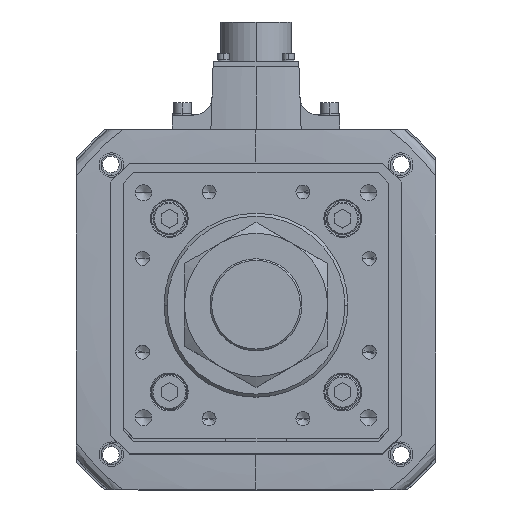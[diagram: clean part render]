
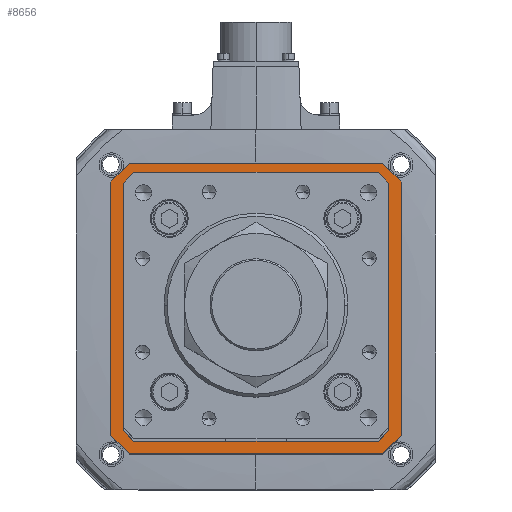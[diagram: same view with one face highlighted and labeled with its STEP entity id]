
A CAD part, top view. The second image highlights one B-rep face of the part: STEP entity #8656.
In plain terms, the highlighted planar face has unit normal (0, 0, 1).
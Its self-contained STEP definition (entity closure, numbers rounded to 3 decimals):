
#110 = DIRECTION ( 'NONE',  ( -0.707, -0.707, 0. ) ) ;
#290 = ORIENTED_EDGE ( 'NONE', *, *, #50712, .T. ) ;
#583 = LINE ( 'NONE', #14537, #45347 ) ;
#713 = CARTESIAN_POINT ( 'NONE',  ( 62., -71., -142. ) ) ;
#1245 = CARTESIAN_POINT ( 'NONE',  ( -71., -62., -142. ) ) ;
#1287 = VECTOR ( 'NONE', #42397, 1000. ) ;
#1475 = ORIENTED_EDGE ( 'NONE', *, *, #41529, .T. ) ;
#2256 = VECTOR ( 'NONE', #11108, 1000. ) ;
#2274 = EDGE_CURVE ( 'NONE', #53162, #16211, #14373, .T. ) ;
#2767 = CARTESIAN_POINT ( 'NONE',  ( 60.896, 60.896, -142. ) ) ;
#3527 = LINE ( 'NONE', #8687, #22838 ) ;
#4228 = LINE ( 'NONE', #28700, #2256 ) ;
#5228 = CARTESIAN_POINT ( 'NONE',  ( 58.793, 63., -142. ) ) ;
#5737 = CARTESIAN_POINT ( 'NONE',  ( -71., 62., -142. ) ) ;
#5987 = DIRECTION ( 'NONE',  ( 0., -1., 0. ) ) ;
#6317 = VERTEX_POINT ( 'NONE', #33688 ) ;
#6422 = DIRECTION ( 'NONE',  ( 0.707, 0.707, 0. ) ) ;
#6694 = LINE ( 'NONE', #14608, #50700 ) ;
#6810 = VECTOR ( 'NONE', #11369, 1000. ) ;
#6923 = VERTEX_POINT ( 'NONE', #30572 ) ;
#7438 = EDGE_CURVE ( 'NONE', #25376, #7585, #25378, .T. ) ;
#7585 = VERTEX_POINT ( 'NONE', #9843 ) ;
#8014 = DIRECTION ( 'NONE',  ( -1., 0., 0. ) ) ;
#8389 = VECTOR ( 'NONE', #41662, 1000. ) ;
#8656 = ADVANCED_FACE ( 'NONE', ( #32005, #13220 ), #10806, .T. ) ;
#8686 = VERTEX_POINT ( 'NONE', #30071 ) ;
#8687 = CARTESIAN_POINT ( 'NONE',  ( 71., -62., -142. ) ) ;
#8964 = VECTOR ( 'NONE', #6422, 1000. ) ;
#9843 = CARTESIAN_POINT ( 'NONE',  ( -58.793, -63., -142. ) ) ;
#10806 = PLANE ( 'NONE',  #39956 ) ;
#11108 = DIRECTION ( 'NONE',  ( 0., 1., 0. ) ) ;
#11180 = DIRECTION ( 'NONE',  ( 0., 0., 1. ) ) ;
#11369 = DIRECTION ( 'NONE',  ( -0.707, 0.707, 0. ) ) ;
#11553 = ORIENTED_EDGE ( 'NONE', *, *, #51524, .F. ) ;
#11680 = EDGE_CURVE ( 'NONE', #23437, #6923, #4228, .T. ) ;
#12307 = CARTESIAN_POINT ( 'NONE',  ( -71., 62., -142. ) ) ;
#13013 = LINE ( 'NONE', #54108, #8389 ) ;
#13220 = FACE_OUTER_BOUND ( 'NONE', #31799, .T. ) ;
#14373 = LINE ( 'NONE', #51987, #31813 ) ;
#14537 = CARTESIAN_POINT ( 'NONE',  ( -62., -71., -142. ) ) ;
#14608 = CARTESIAN_POINT ( 'NONE',  ( 60.896, -60.896, -142. ) ) ;
#14787 = DIRECTION ( 'NONE',  ( -0.707, -0.707, 0. ) ) ;
#15120 = EDGE_CURVE ( 'NONE', #38977, #6317, #45703, .T. ) ;
#15281 = CARTESIAN_POINT ( 'NONE',  ( 0., 0., -142. ) ) ;
#16211 = VERTEX_POINT ( 'NONE', #5228 ) ;
#17377 = VERTEX_POINT ( 'NONE', #18330 ) ;
#17626 = ORIENTED_EDGE ( 'NONE', *, *, #2274, .T. ) ;
#17635 = EDGE_CURVE ( 'NONE', #7585, #23437, #18127, .T. ) ;
#18127 = LINE ( 'NONE', #32740, #6810 ) ;
#18330 = CARTESIAN_POINT ( 'NONE',  ( -62., -71., -142. ) ) ;
#18860 = ORIENTED_EDGE ( 'NONE', *, *, #15120, .F. ) ;
#19100 = DIRECTION ( 'NONE',  ( 0.707, 0.707, 0. ) ) ;
#19425 = EDGE_CURVE ( 'NONE', #17377, #35290, #583, .T. ) ;
#19733 = VECTOR ( 'NONE', #19100, 1000. ) ;
#19953 = DIRECTION ( 'NONE',  ( 1., 0., 0. ) ) ;
#20636 = LINE ( 'NONE', #36248, #43363 ) ;
#21646 = CARTESIAN_POINT ( 'NONE',  ( 71., 62., -142. ) ) ;
#22101 = CARTESIAN_POINT ( 'NONE',  ( 71., -62., -142. ) ) ;
#22630 = LINE ( 'NONE', #21646, #1287 ) ;
#22765 = EDGE_CURVE ( 'NONE', #16211, #29067, #34985, .T. ) ;
#22818 = VERTEX_POINT ( 'NONE', #25679 ) ;
#22838 = VECTOR ( 'NONE', #110, 1000. ) ;
#23001 = CARTESIAN_POINT ( 'NONE',  ( -60.896, 60.896, -142. ) ) ;
#23437 = VERTEX_POINT ( 'NONE', #52624 ) ;
#24779 = VERTEX_POINT ( 'NONE', #713 ) ;
#25376 = VERTEX_POINT ( 'NONE', #49456 ) ;
#25378 = LINE ( 'NONE', #50505, #45416 ) ;
#25679 = CARTESIAN_POINT ( 'NONE',  ( 63., -58.793, -142. ) ) ;
#25908 = LINE ( 'NONE', #35231, #41286 ) ;
#26817 = DIRECTION ( 'NONE',  ( 0., 1., 0. ) ) ;
#27151 = LINE ( 'NONE', #5737, #50488 ) ;
#27380 = ORIENTED_EDGE ( 'NONE', *, *, #44894, .F. ) ;
#27437 = ORIENTED_EDGE ( 'NONE', *, *, #22765, .T. ) ;
#27651 = DIRECTION ( 'NONE',  ( -0.707, 0.707, 0. ) ) ;
#28700 = CARTESIAN_POINT ( 'NONE',  ( -63., 0., -142. ) ) ;
#28782 = LINE ( 'NONE', #35666, #33458 ) ;
#29067 = VERTEX_POINT ( 'NONE', #51517 ) ;
#30071 = CARTESIAN_POINT ( 'NONE',  ( 71., 62., -142. ) ) ;
#30288 = ORIENTED_EDGE ( 'NONE', *, *, #37458, .F. ) ;
#30439 = CARTESIAN_POINT ( 'NONE',  ( 62., 71., -142. ) ) ;
#30572 = CARTESIAN_POINT ( 'NONE',  ( -63., 58.793, -142. ) ) ;
#30786 = ORIENTED_EDGE ( 'NONE', *, *, #19425, .F. ) ;
#31799 = EDGE_LOOP ( 'NONE', ( #30288, #18860, #27380, #30786, #37971, #52656, #11553, #39625 ) ) ;
#31813 = VECTOR ( 'NONE', #46987, 1000. ) ;
#32005 = FACE_BOUND ( 'NONE', #38240, .T. ) ;
#32259 = ORIENTED_EDGE ( 'NONE', *, *, #17635, .T. ) ;
#32615 = EDGE_CURVE ( 'NONE', #51310, #24779, #3527, .T. ) ;
#32740 = CARTESIAN_POINT ( 'NONE',  ( -60.896, -60.896, -142. ) ) ;
#33129 = LINE ( 'NONE', #23001, #19733 ) ;
#33458 = VECTOR ( 'NONE', #52376, 1000. ) ;
#33688 = CARTESIAN_POINT ( 'NONE',  ( -62., 71., -142. ) ) ;
#34985 = LINE ( 'NONE', #2767, #51563 ) ;
#35231 = CARTESIAN_POINT ( 'NONE',  ( 71., 62., -142. ) ) ;
#35290 = VERTEX_POINT ( 'NONE', #1245 ) ;
#35666 = CARTESIAN_POINT ( 'NONE',  ( 62., -71., -142. ) ) ;
#36248 = CARTESIAN_POINT ( 'NONE',  ( 63., 0., -142. ) ) ;
#36946 = DIRECTION ( 'NONE',  ( 0.707, -0.707, 0. ) ) ;
#37320 = EDGE_CURVE ( 'NONE', #6923, #53162, #33129, .T. ) ;
#37458 = EDGE_CURVE ( 'NONE', #6317, #55126, #13013, .T. ) ;
#37971 = ORIENTED_EDGE ( 'NONE', *, *, #49825, .F. ) ;
#38178 = CARTESIAN_POINT ( 'NONE',  ( -58.793, 63., -142. ) ) ;
#38240 = EDGE_LOOP ( 'NONE', ( #290, #1475, #43113, #32259, #44530, #44958, #17626, #27437 ) ) ;
#38977 = VERTEX_POINT ( 'NONE', #12307 ) ;
#39625 = ORIENTED_EDGE ( 'NONE', *, *, #50494, .F. ) ;
#39956 = AXIS2_PLACEMENT_3D ( 'NONE', #15281, #11180, #19953 ) ;
#40555 = CARTESIAN_POINT ( 'NONE',  ( -62., 71., -142. ) ) ;
#41286 = VECTOR ( 'NONE', #44178, 1000. ) ;
#41529 = EDGE_CURVE ( 'NONE', #22818, #25376, #6694, .T. ) ;
#41662 = DIRECTION ( 'NONE',  ( 1., 0., 0. ) ) ;
#42397 = DIRECTION ( 'NONE',  ( 0.707, -0.707, 0. ) ) ;
#43113 = ORIENTED_EDGE ( 'NONE', *, *, #7438, .T. ) ;
#43363 = VECTOR ( 'NONE', #5987, 1000. ) ;
#44178 = DIRECTION ( 'NONE',  ( 0., -1., 0. ) ) ;
#44530 = ORIENTED_EDGE ( 'NONE', *, *, #11680, .T. ) ;
#44894 = EDGE_CURVE ( 'NONE', #35290, #38977, #27151, .T. ) ;
#44958 = ORIENTED_EDGE ( 'NONE', *, *, #37320, .T. ) ;
#45347 = VECTOR ( 'NONE', #27651, 1000. ) ;
#45416 = VECTOR ( 'NONE', #8014, 1000. ) ;
#45703 = LINE ( 'NONE', #40555, #8964 ) ;
#46987 = DIRECTION ( 'NONE',  ( 1., 0., 0. ) ) ;
#49456 = CARTESIAN_POINT ( 'NONE',  ( 58.793, -63., -142. ) ) ;
#49825 = EDGE_CURVE ( 'NONE', #24779, #17377, #28782, .T. ) ;
#50488 = VECTOR ( 'NONE', #26817, 1000. ) ;
#50494 = EDGE_CURVE ( 'NONE', #55126, #8686, #22630, .T. ) ;
#50505 = CARTESIAN_POINT ( 'NONE',  ( 0., -63., -142. ) ) ;
#50700 = VECTOR ( 'NONE', #14787, 1000. ) ;
#50712 = EDGE_CURVE ( 'NONE', #29067, #22818, #20636, .T. ) ;
#51310 = VERTEX_POINT ( 'NONE', #22101 ) ;
#51517 = CARTESIAN_POINT ( 'NONE',  ( 63., 58.793, -142. ) ) ;
#51524 = EDGE_CURVE ( 'NONE', #8686, #51310, #25908, .T. ) ;
#51563 = VECTOR ( 'NONE', #36946, 1000. ) ;
#51987 = CARTESIAN_POINT ( 'NONE',  ( 0., 63., -142. ) ) ;
#52376 = DIRECTION ( 'NONE',  ( -1., 0., 0. ) ) ;
#52624 = CARTESIAN_POINT ( 'NONE',  ( -63., -58.793, -142. ) ) ;
#52656 = ORIENTED_EDGE ( 'NONE', *, *, #32615, .F. ) ;
#53162 = VERTEX_POINT ( 'NONE', #38178 ) ;
#54108 = CARTESIAN_POINT ( 'NONE',  ( 62., 71., -142. ) ) ;
#55126 = VERTEX_POINT ( 'NONE', #30439 ) ;
